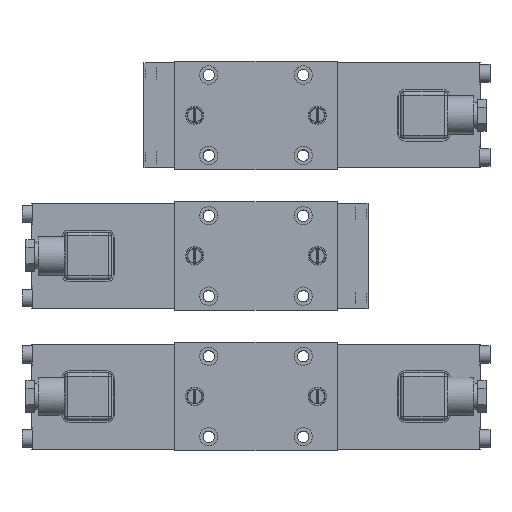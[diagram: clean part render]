
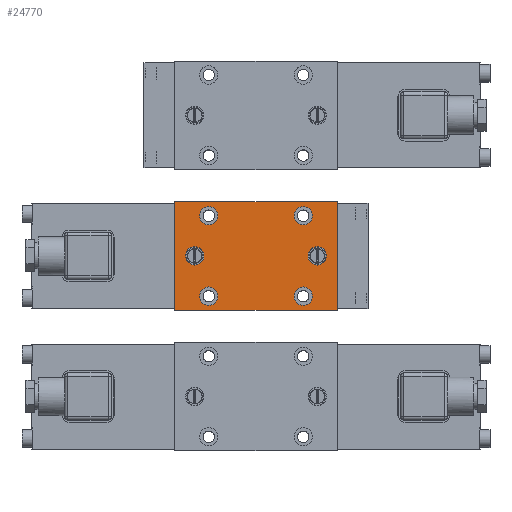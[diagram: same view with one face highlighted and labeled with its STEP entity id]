
A CAD part, top view. The second image highlights one B-rep face of the part: STEP entity #24770.
In plain terms, the highlighted planar face has unit normal (0, 0, 1).
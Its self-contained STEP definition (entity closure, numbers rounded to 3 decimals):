
#24770=ADVANCED_FACE('', (#24780,#24790,#24800,#24810,#24820,#24830,
#24840), #24850, .T.);
#88980=AXIS2_PLACEMENT_3D('Ax2Pl3d', #88990, #89000, #89010);
#89020=AXIS2_PLACEMENT_3D('Ax2Pl3d', #89030, #89040, #89050);
#89060=AXIS2_PLACEMENT_3D('Ax2Pl3d', #89070, #89080, #89090);
#89100=AXIS2_PLACEMENT_3D('Ax2Pl3d', #89110, #89120, #89130);
#89140=AXIS2_PLACEMENT_3D('Ax2Pl3d', #89150, #89160, #89170);
#89180=AXIS2_PLACEMENT_3D('Ax2Pl3d', #89190, #89200, #89210);
#89220=AXIS2_PLACEMENT_3D('Ax2Pl3d', #89230, #89240, #89250);
#88990=CARTESIAN_POINT('HicPkt', (0.,142.,262.));
#146730=CARTESIAN_POINT('', (0.,80.,262.));
#146740=CARTESIAN_POINT('', (0.,142.,262.));
#146750=CARTESIAN_POINT('', (0.,80.,262.));
#146760=CARTESIAN_POINT('', (93.,80.,262.));
#146770=CARTESIAN_POINT('', (93.,80.,262.));
#146780=CARTESIAN_POINT('', (93.,142.,262.));
#146790=CARTESIAN_POINT('', (93.,142.,262.));
#146800=CARTESIAN_POINT('', (0.,142.,262.));
#89030=CARTESIAN_POINT('HicPkt', (81.5,111.,262.));
#146810=CARTESIAN_POINT('', (81.5,116.25,262.));
#89070=CARTESIAN_POINT('HicPkt', (11.5,111.,262.));
#146820=CARTESIAN_POINT('', (11.5,116.25,262.));
#89110=CARTESIAN_POINT('HicPkt', (19.5,88.,262.));
#146830=CARTESIAN_POINT('', (19.5,93.25,262.));
#89150=CARTESIAN_POINT('HicPkt', (19.5,134.,262.));
#146840=CARTESIAN_POINT('', (19.5,139.25,262.));
#89190=CARTESIAN_POINT('HicPkt', (73.5,134.,262.));
#146850=CARTESIAN_POINT('', (73.5,139.25,262.));
#89230=CARTESIAN_POINT('HicPkt', (73.5,88.,262.));
#146860=CARTESIAN_POINT('', (73.5,93.25,262.));
#161630=CIRCLE('Circle', #89020, 5.25);
#161640=CIRCLE('Circle', #89060, 5.25);
#161650=CIRCLE('Circle', #89100, 5.25);
#161660=CIRCLE('Circle', #89140, 5.25);
#161670=CIRCLE('Circle', #89180, 5.25);
#161680=CIRCLE('Circle', #89220, 5.25);
#89000=DIRECTION('Axis', (0.,0.,1.));
#89010=DIRECTION('RefDirection', (1.,0.,0.));
#250130=DIRECTION('', (0.,-1.,0.));
#250140=DIRECTION('', (1.,0.,0.));
#250150=DIRECTION('', (0.,1.,0.));
#250160=DIRECTION('', (-1.,0.,0.));
#89040=DIRECTION('Axis', (0.,0.,1.));
#89050=DIRECTION('RefDirection', (1.,0.,0.));
#89080=DIRECTION('Axis', (0.,0.,1.));
#89090=DIRECTION('RefDirection', (1.,0.,0.));
#89120=DIRECTION('Axis', (0.,0.,1.));
#89130=DIRECTION('RefDirection', (1.,0.,0.));
#89160=DIRECTION('Axis', (0.,0.,1.));
#89170=DIRECTION('RefDirection', (1.,0.,0.));
#89200=DIRECTION('Axis', (0.,0.,1.));
#89210=DIRECTION('RefDirection', (1.,0.,0.));
#89240=DIRECTION('Axis', (0.,0.,1.));
#89250=DIRECTION('RefDirection', (1.,0.,0.));
#286100=EDGE_CURVE('', #286110, #286120, #286130, .T.);
#286140=EDGE_CURVE('', #286120, #286150, #286160, .T.);
#286170=EDGE_CURVE('', #286150, #286180, #286190, .T.);
#286200=EDGE_CURVE('', #286180, #286110, #286210, .T.);
#286220=EDGE_CURVE('', #286230, #286230, #161630, .T.);
#286240=EDGE_CURVE('', #286250, #286250, #161640, .T.);
#286260=EDGE_CURVE('', #286270, #286270, #161650, .T.);
#286280=EDGE_CURVE('', #286290, #286290, #161660, .T.);
#286300=EDGE_CURVE('', #286310, #286310, #161670, .T.);
#286320=EDGE_CURVE('', #286330, #286330, #161680, .T.);
#340070=EDGE_LOOP('Edge_loop', (#340080,#340090,#340100,#340110));
#340120=EDGE_LOOP('Edge_loop', (#340130));
#340140=EDGE_LOOP('Edge_loop', (#340150));
#340160=EDGE_LOOP('Edge_loop', (#340170));
#340180=EDGE_LOOP('Edge_loop', (#340190));
#340200=EDGE_LOOP('Edge_loop', (#340210));
#340220=EDGE_LOOP('Edge_loop', (#340230));
#24790=FACE_BOUND('', #340120, .T.);
#24800=FACE_BOUND('', #340140, .T.);
#24810=FACE_BOUND('', #340160, .T.);
#24820=FACE_BOUND('', #340180, .T.);
#24830=FACE_BOUND('', #340200, .T.);
#24840=FACE_BOUND('', #340220, .T.);
#24780=FACE_OUTER_BOUND('Face_outer_bound', #340070, .T.);
#286130=LINE('Line', #146730, #397550);
#286160=LINE('Line', #146760, #397560);
#286190=LINE('Line', #146780, #397570);
#286210=LINE('Line', #146800, #397580);
#340080=ORIENTED_EDGE('', *, *, #286100, .T.);
#340090=ORIENTED_EDGE('', *, *, #286140, .T.);
#340100=ORIENTED_EDGE('', *, *, #286170, .T.);
#340110=ORIENTED_EDGE('', *, *, #286200, .T.);
#340130=ORIENTED_EDGE('', *, *, #286220, .F.);
#340150=ORIENTED_EDGE('', *, *, #286240, .F.);
#340170=ORIENTED_EDGE('', *, *, #286260, .F.);
#340190=ORIENTED_EDGE('', *, *, #286280, .F.);
#340210=ORIENTED_EDGE('', *, *, #286300, .F.);
#340230=ORIENTED_EDGE('', *, *, #286320, .F.);
#24850=PLANE('Plane', #88980);
#397550=VECTOR('', #250130, 62.);
#397560=VECTOR('', #250140, 93.);
#397570=VECTOR('', #250150, 62.);
#397580=VECTOR('', #250160, 93.);
#286110=VERTEX_POINT('', #146740);
#286120=VERTEX_POINT('', #146750);
#286150=VERTEX_POINT('', #146770);
#286180=VERTEX_POINT('', #146790);
#286230=VERTEX_POINT('', #146810);
#286250=VERTEX_POINT('', #146820);
#286270=VERTEX_POINT('', #146830);
#286290=VERTEX_POINT('', #146840);
#286310=VERTEX_POINT('', #146850);
#286330=VERTEX_POINT('', #146860);
